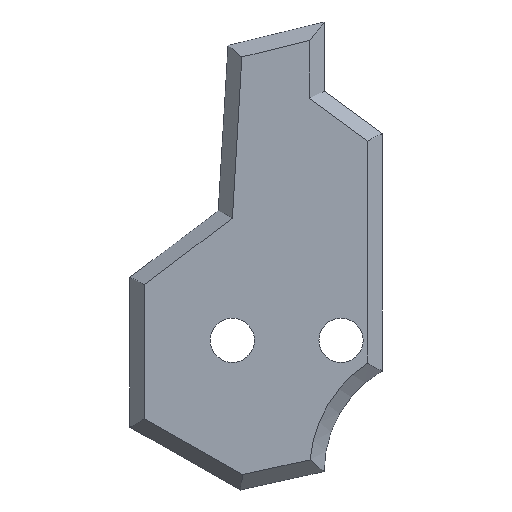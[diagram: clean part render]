
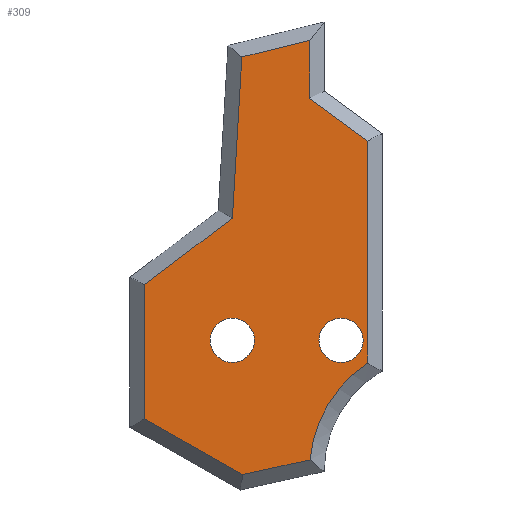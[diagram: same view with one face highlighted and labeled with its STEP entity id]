
A CAD part, front view. The second image highlights one B-rep face of the part: STEP entity #309.
In plain terms, the highlighted planar face has unit normal (0, -1, 0).
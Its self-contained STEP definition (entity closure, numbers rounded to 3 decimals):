
#1 = CARTESIAN_POINT ( 'NONE',  ( 0., 0., 0. ) ) ;
#2 = CARTESIAN_POINT ( 'NONE',  ( -14.33, 0., 9.05 ) ) ;
#13 = EDGE_CURVE ( 'NONE', #458, #159, #92, .T. ) ;
#30 = ORIENTED_EDGE ( 'NONE', *, *, #546, .T. ) ;
#63 = CARTESIAN_POINT ( 'NONE',  ( -6.83, 0., 9.05 ) ) ;
#65 = CARTESIAN_POINT ( 'NONE',  ( -5., 0., 7.483 ) ) ;
#66 = AXIS2_PLACEMENT_3D ( 'NONE', #2, #240, #243 ) ;
#68 = CIRCLE ( 'NONE', #246, 1.525 ) ;
#76 = EDGE_CURVE ( 'NONE', #472, #602, #427, .T. ) ;
#92 = CIRCLE ( 'NONE', #744, 1.525 ) ;
#99 = VERTEX_POINT ( 'NONE', #422 ) ;
#104 = CARTESIAN_POINT ( 'NONE',  ( -9., 0., 0. ) ) ;
#107 = VERTEX_POINT ( 'NONE', #65 ) ;
#112 = VERTEX_POINT ( 'NONE', #549 ) ;
#121 = VECTOR ( 'NONE', #323, 1000. ) ;
#129 = DIRECTION ( 'NONE',  ( -0.972, 0., -0.237 ) ) ;
#131 = AXIS2_PLACEMENT_3D ( 'NONE', #566, #687, #560 ) ;
#139 = CARTESIAN_POINT ( 'NONE',  ( -6.83, 0., 10.575 ) ) ;
#142 = CIRCLE ( 'NONE', #131, 1.525 ) ;
#149 = VERTEX_POINT ( 'NONE', #509 ) ;
#152 = VERTEX_POINT ( 'NONE', #330 ) ;
#159 = VERTEX_POINT ( 'NONE', #139 ) ;
#162 = ORIENTED_EDGE ( 'NONE', *, *, #76, .T. ) ;
#168 = DIRECTION ( 'NONE',  ( 0., 1., 0. ) ) ;
#176 = DIRECTION ( 'NONE',  ( 0., 0., -1. ) ) ;
#193 = AXIS2_PLACEMENT_3D ( 'NONE', #641, #168, #650 ) ;
#195 = VECTOR ( 'NONE', #176, 1000. ) ;
#197 = EDGE_LOOP ( 'NONE', ( #162, #324 ) ) ;
#200 = VERTEX_POINT ( 'NONE', #563 ) ;
#201 = CARTESIAN_POINT ( 'NONE',  ( -13.606, 0., -0.213 ) ) ;
#222 = LINE ( 'NONE', #636, #525 ) ;
#225 = FACE_BOUND ( 'NONE', #538, .T. ) ;
#235 = LINE ( 'NONE', #666, #683 ) ;
#239 = EDGE_CURVE ( 'NONE', #107, #200, #677, .T. ) ;
#240 = DIRECTION ( 'NONE',  ( 0., 1., 0. ) ) ;
#241 = ORIENTED_EDGE ( 'NONE', *, *, #298, .T. ) ;
#242 = DIRECTION ( 'NONE',  ( 0., 1., 0. ) ) ;
#243 = DIRECTION ( 'NONE',  ( 0., 0., 1. ) ) ;
#244 = EDGE_CURVE ( 'NONE', #602, #472, #142, .T. ) ;
#246 = AXIS2_PLACEMENT_3D ( 'NONE', #63, #553, #548 ) ;
#256 = DIRECTION ( 'NONE',  ( -0.806, 0., 0.592 ) ) ;
#271 = VERTEX_POINT ( 'NONE', #514 ) ;
#276 = VERTEX_POINT ( 'NONE', #574 ) ;
#284 = ORIENTED_EDGE ( 'NONE', *, *, #471, .T. ) ;
#285 = EDGE_CURVE ( 'NONE', #271, #112, #377, .T. ) ;
#286 = ORIENTED_EDGE ( 'NONE', *, *, #423, .T. ) ;
#298 = EDGE_CURVE ( 'NONE', #152, #99, #767, .T. ) ;
#303 = CARTESIAN_POINT ( 'NONE',  ( -14.33, 0., 7.525 ) ) ;
#309 = ADVANCED_FACE ( 'NONE', ( #764, #225, #339 ), #403, .F. ) ;
#323 = DIRECTION ( 'NONE',  ( 0., 0., 1. ) ) ;
#324 = ORIENTED_EDGE ( 'NONE', *, *, #244, .T. ) ;
#327 = VERTEX_POINT ( 'NONE', #521 ) ;
#329 = VECTOR ( 'NONE', #398, 1000. ) ;
#330 = CARTESIAN_POINT ( 'NONE',  ( -9., 0., 25.729 ) ) ;
#339 = FACE_BOUND ( 'NONE', #197, .T. ) ;
#356 = DIRECTION ( 'NONE',  ( 0., 1., 0. ) ) ;
#361 = AXIS2_PLACEMENT_3D ( 'NONE', #1, #242, #668 ) ;
#368 = EDGE_CURVE ( 'NONE', #327, #643, #222, .T. ) ;
#371 = VECTOR ( 'NONE', #537, 1000. ) ;
#373 = CARTESIAN_POINT ( 'NONE',  ( -20.391, 0., 0. ) ) ;
#377 = LINE ( 'NONE', #701, #571 ) ;
#398 = DIRECTION ( 'NONE',  ( 0., 0., 1. ) ) ;
#399 = VECTOR ( 'NONE', #256, 1000. ) ;
#402 = LINE ( 'NONE', #644, #467 ) ;
#403 = PLANE ( 'NONE',  #193 ) ;
#412 = DIRECTION ( 'NONE',  ( -0.798, 0., -0.602 ) ) ;
#422 = CARTESIAN_POINT ( 'NONE',  ( -9., 0., 29.727 ) ) ;
#423 = EDGE_CURVE ( 'NONE', #112, #327, #488, .T. ) ;
#427 = CIRCLE ( 'NONE', #66, 1.525 ) ;
#458 = VERTEX_POINT ( 'NONE', #772 ) ;
#467 = VECTOR ( 'NONE', #755, 1000. ) ;
#471 = EDGE_CURVE ( 'NONE', #159, #458, #68, .T. ) ;
#472 = VERTEX_POINT ( 'NONE', #303 ) ;
#488 = LINE ( 'NONE', #373, #195 ) ;
#497 = EDGE_CURVE ( 'NONE', #149, #107, #745, .T. ) ;
#508 = LINE ( 'NONE', #734, #399 ) ;
#509 = CARTESIAN_POINT ( 'NONE',  ( -8.963, 0., 0.812 ) ) ;
#514 = CARTESIAN_POINT ( 'NONE',  ( -14.326, 0., 17.469 ) ) ;
#520 = EDGE_CURVE ( 'NONE', #643, #149, #776, .T. ) ;
#521 = CARTESIAN_POINT ( 'NONE',  ( -20.391, 0., 3.639 ) ) ;
#522 = ORIENTED_EDGE ( 'NONE', *, *, #736, .T. ) ;
#525 = VECTOR ( 'NONE', #526, 1000. ) ;
#526 = DIRECTION ( 'NONE',  ( 0.87, 0., -0.494 ) ) ;
#534 = CARTESIAN_POINT ( 'NONE',  ( -6.83, 0., 9.05 ) ) ;
#537 = DIRECTION ( 'NONE',  ( 0.977, 0., 0.215 ) ) ;
#538 = EDGE_LOOP ( 'NONE', ( #754, #284 ) ) ;
#546 = EDGE_CURVE ( 'NONE', #99, #276, #235, .T. ) ;
#548 = DIRECTION ( 'NONE',  ( 0., 0., 1. ) ) ;
#549 = CARTESIAN_POINT ( 'NONE',  ( -20.391, 0., 12.891 ) ) ;
#553 = DIRECTION ( 'NONE',  ( 0., 1., 0. ) ) ;
#560 = DIRECTION ( 'NONE',  ( 0., 0., 1. ) ) ;
#563 = CARTESIAN_POINT ( 'NONE',  ( -5., 0., 22.788 ) ) ;
#566 = CARTESIAN_POINT ( 'NONE',  ( -14.33, 0., 9.05 ) ) ;
#571 = VECTOR ( 'NONE', #412, 1000. ) ;
#574 = CARTESIAN_POINT ( 'NONE',  ( -13.669, 0., 28.588 ) ) ;
#575 = EDGE_CURVE ( 'NONE', #200, #152, #508, .T. ) ;
#584 = ORIENTED_EDGE ( 'NONE', *, *, #575, .T. ) ;
#602 = VERTEX_POINT ( 'NONE', #686 ) ;
#615 = ORIENTED_EDGE ( 'NONE', *, *, #285, .T. ) ;
#625 = CARTESIAN_POINT ( 'NONE',  ( -5., 0., 23.293 ) ) ;
#626 = ORIENTED_EDGE ( 'NONE', *, *, #368, .T. ) ;
#636 = CARTESIAN_POINT ( 'NONE',  ( -13.272, 0., -0.402 ) ) ;
#641 = CARTESIAN_POINT ( 'NONE',  ( 0., 0., 0. ) ) ;
#643 = VERTEX_POINT ( 'NONE', #201 ) ;
#644 = CARTESIAN_POINT ( 'NONE',  ( -15.304, 0., 0.904 ) ) ;
#650 = DIRECTION ( 'NONE',  ( 0., 0., 1. ) ) ;
#666 = CARTESIAN_POINT ( 'NONE',  ( -7.349, 0., 30.13 ) ) ;
#668 = DIRECTION ( 'NONE',  ( 0., 0., 1. ) ) ;
#677 = LINE ( 'NONE', #625, #121 ) ;
#683 = VECTOR ( 'NONE', #129, 1000. ) ;
#686 = CARTESIAN_POINT ( 'NONE',  ( -14.33, 0., 10.575 ) ) ;
#687 = DIRECTION ( 'NONE',  ( 0., 1., 0. ) ) ;
#701 = CARTESIAN_POINT ( 'NONE',  ( -13.6, 0., 18.017 ) ) ;
#718 = ORIENTED_EDGE ( 'NONE', *, *, #520, .T. ) ;
#722 = CARTESIAN_POINT ( 'NONE',  ( -8.215, 0., 0.977 ) ) ;
#727 = ORIENTED_EDGE ( 'NONE', *, *, #497, .T. ) ;
#734 = CARTESIAN_POINT ( 'NONE',  ( 9.121, 0., 12.403 ) ) ;
#736 = EDGE_CURVE ( 'NONE', #276, #271, #402, .T. ) ;
#741 = ORIENTED_EDGE ( 'NONE', *, *, #239, .T. ) ;
#744 = AXIS2_PLACEMENT_3D ( 'NONE', #534, #356, #768 ) ;
#745 = CIRCLE ( 'NONE', #361, 9. ) ;
#747 = EDGE_LOOP ( 'NONE', ( #626, #718, #727, #741, #584, #241, #30, #522, #615, #286 ) ) ;
#754 = ORIENTED_EDGE ( 'NONE', *, *, #13, .T. ) ;
#755 = DIRECTION ( 'NONE',  ( -0.059, 0., -0.998 ) ) ;
#764 = FACE_OUTER_BOUND ( 'NONE', #747, .T. ) ;
#767 = LINE ( 'NONE', #104, #329 ) ;
#768 = DIRECTION ( 'NONE',  ( 0., 0., 1. ) ) ;
#772 = CARTESIAN_POINT ( 'NONE',  ( -6.83, 0., 7.525 ) ) ;
#776 = LINE ( 'NONE', #722, #371 ) ;
